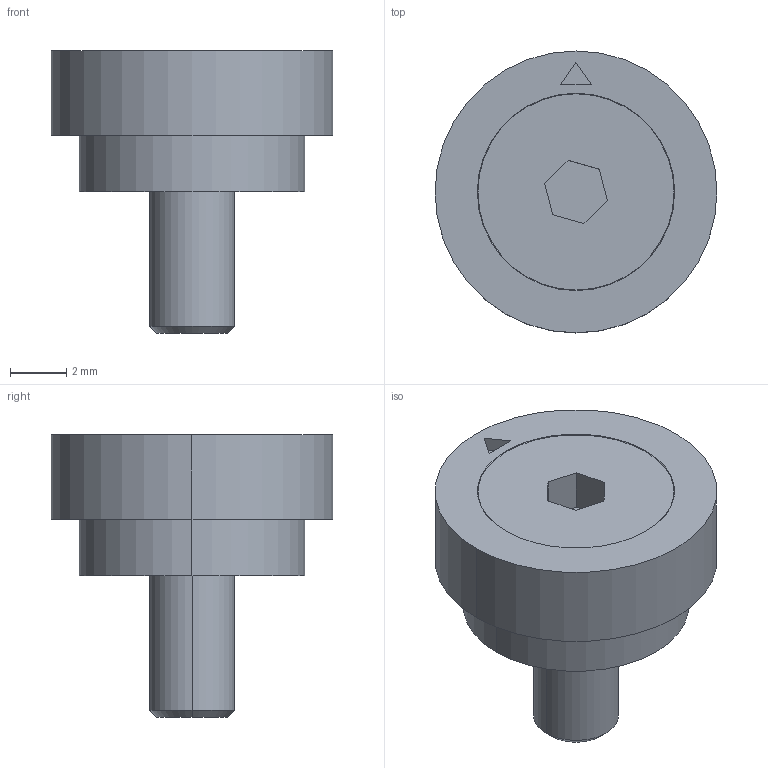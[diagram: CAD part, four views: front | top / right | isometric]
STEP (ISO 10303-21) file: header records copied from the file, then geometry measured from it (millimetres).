
FILE_DESCRIPTION (( 'STEP AP203' ), '1' );
FILE_NAME ('DLBP15-AO.step', '2020-08-21T08:12:37', ( 'Microsoft Corporation' ), ( 'MS' ), 'SwSTEP 2.0', 'SolidWorks 2018', '' );
FILE_SCHEMA (( 'CONFIG_CONTROL_DESIGN' ));
Length unit declared in the file: inch
Products named in the file (1): DLBP15-AO
Bounding box: 10 x 10 x 10.02 mm (x, y, z)
Volume: 365.2 mm3; surface area: 503.7 mm2
Topology: 2 solids, 2 shells, 30 faces, 63 edges, 40 vertices
Faces by surface type: plane 16, cylinder 8, cone 6
Entity records: 882 total; most frequent: DIRECTION 147, CARTESIAN_POINT 134, ORIENTED_EDGE 126, EDGE_CURVE 63, AXIS2_PLACEMENT_3D 53, LINE 41, VECTOR 41, VERTEX_POINT 40
